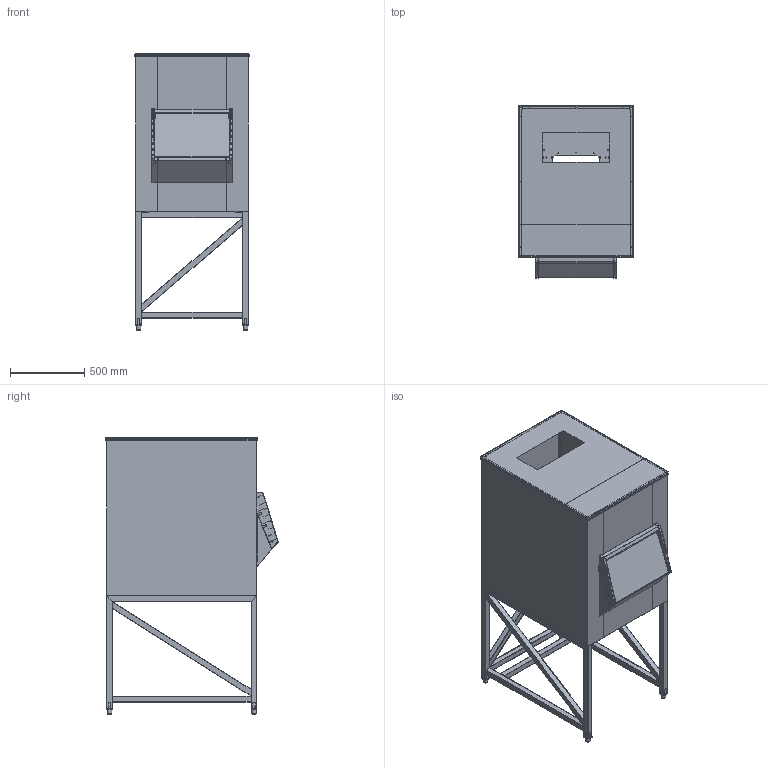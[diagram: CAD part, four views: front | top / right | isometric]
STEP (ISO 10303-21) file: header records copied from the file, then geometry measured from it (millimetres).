
FILE_DESCRIPTION(/* description */ ('Unknown'),/* implementation_level */ '2;1');
FILE_NAME(/* name */ 'SCS300',/* time_stamp */ '2018-04-24T11:11:28+02:00',/* author */ ('Unknown'),/* organization */ ('Unknown'),/* preprocessor_version */ 'ST-DEVELOPER v16.7',/* originating_system */ 'DEX',/* authorisation */ $);
FILE_SCHEMA (('CONFIG_CONTROL_DESIGN'));
Products named in the file (38): SCS300; 42-92+SC1_Carro+puerta_oa_0; 42-91+SC1_Carro+puerta_oa_1; 42-30+31134_oa_2; 42-108+31130; 42-108+31129; 42-110+31132; 42-101+31133; 42-109+31131; 42-104+31128_oa_3; 42-31+31127-R01; 42-47+31135-R01; 42-36+31136; 42-102+8979; 42-102+8978; 42-46+8865; 42-46+8864; 42-96+31143_oa_4; 42-84+31142; 42-145_R02; tubo 40x40x1.5_oa_5; 42-67+pletina2; tubo 40x40x1.5_oa_6; tubo 40x40x1.5_oa_7; tubo 40x40x1.5_oa_8; tubo 40x40x1.5_oa_9; tubo 40x40x1.5_oa_10; tubo 40x40x1.5_oa_11; tubo 40x40x1.5_oa_12; tubo 40x40x1.5_oa_13; tubo 40x40x1.5_oa_14; tubo 40x40x1.5_oa_15; tubo 40x40x1.5_oa_16; tubo 40x40x1.5_oa_17; tubo 40x40x1.5_oa_18; 42-152+31190; 42-151+31320; 30138+pata_reg_inox_tubo_40x40
Assembly tree (43 placements, depth 6):
  SCS300
    42-92+SC1_Carro+puerta_oa_0
      42-91+SC1_Carro+puerta_oa_1
        42-30+31134_oa_2
          42-108+31130
          42-108+31129
          42-110+31132
          42-101+31133
          42-109+31131
          42-104+31128_oa_3
            42-31+31127-R01
      42-47+31135-R01
      42-36+31136
      42-102+8979
      42-102+8978
      42-46+8865
      42-46+8864
      42-96+31143_oa_4
        42-84+31142
    42-145_R02
      tubo 40x40x1.5_oa_5
      42-67+pletina2  x4
      tubo 40x40x1.5_oa_6
      tubo 40x40x1.5_oa_7
      tubo 40x40x1.5_oa_8
      tubo 40x40x1.5_oa_9
      tubo 40x40x1.5_oa_10
      tubo 40x40x1.5_oa_11
      tubo 40x40x1.5_oa_12
      tubo 40x40x1.5_oa_13
      tubo 40x40x1.5_oa_14
      tubo 40x40x1.5_oa_15
      tubo 40x40x1.5_oa_16
      tubo 40x40x1.5_oa_17
      tubo 40x40x1.5_oa_18
    42-152+31190
    42-151+31320
    30138+pata_reg_inox_tubo_40x40  x4
Bounding box: 770.2 x 1162.89 x 1864.6 mm (x, y, z)
Volume: 7930861.4 mm3; surface area: 16437060.1 mm2
Topology: 38 solids, 38 shells, 3338 faces, 8994 edges, 5593 vertices
Faces by surface type: plane 1601, cylinder 1169, bspline 300, cone 128, sphere 120, torus 20
Full cylindrical faces by diameter (mm): 2.7 x20, 3.5 x28, 4 x8, 4.2 x60, 5 x46, 6 x2, 12 x8, 15 x3, 22 x4, 26 x4, 30 x4
Entity records: 97616 total; most frequent: CARTESIAN_POINT 22521, ORIENTED_EDGE 15236, DIRECTION 15089, EDGE_CURVE 7618, AXIS2_PLACEMENT_3D 5223, VERTEX_POINT 4909, LINE 4643, VECTOR 4643
